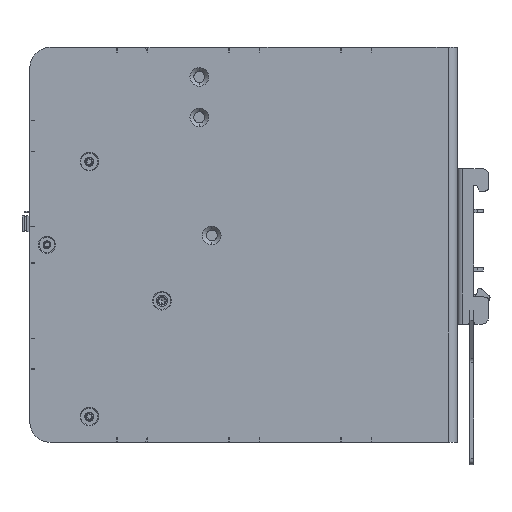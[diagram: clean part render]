
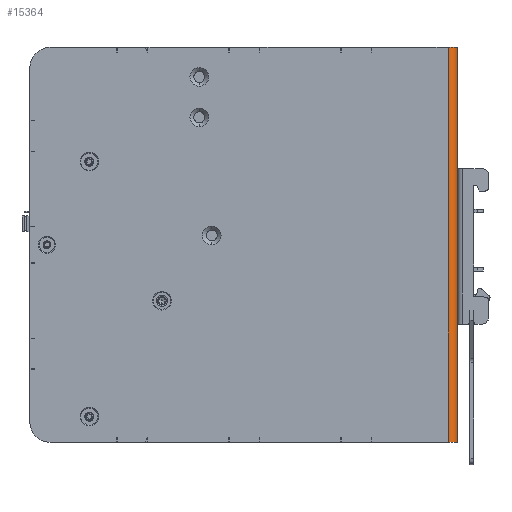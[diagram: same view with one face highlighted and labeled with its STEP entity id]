
A CAD part, front view. The second image highlights one B-rep face of the part: STEP entity #15364.
In plain terms, the highlighted cylindrical face has radius 3 mm (diameter 6 mm), a partial arc.
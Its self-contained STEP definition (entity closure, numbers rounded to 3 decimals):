
#1838 = EDGE_CURVE ( 'NONE', #10672, #155280, #147156, .T. ) ;
#2408 = AXIS2_PLACEMENT_3D ( 'NONE', #53598, #53358, #52924 ) ;
#3061 = VERTEX_POINT ( 'NONE', #57658 ) ;
#10672 = VERTEX_POINT ( 'NONE', #185291 ) ;
#10675 = AXIS2_PLACEMENT_3D ( 'NONE', #161762, #69340, #177287 ) ;
#15364 = ADVANCED_FACE ( 'NONE', ( #197695 ), #183171, .T. ) ;
#24822 = CARTESIAN_POINT ( 'NONE',  ( 65.75, -40., 63.5 ) ) ;
#25421 = CARTESIAN_POINT ( 'NONE',  ( 65.75, -40., -63.5 ) ) ;
#28873 = ORIENTED_EDGE ( 'NONE', *, *, #199777, .F. ) ;
#36370 = DIRECTION ( 'NONE',  ( 0., 0., 1. ) ) ;
#51647 = AXIS2_PLACEMENT_3D ( 'NONE', #60007, #56606, #60252 ) ;
#52924 = DIRECTION ( 'NONE',  ( 1., 0., 0. ) ) ;
#53358 = DIRECTION ( 'NONE',  ( 0., 0., -1. ) ) ;
#53598 = CARTESIAN_POINT ( 'NONE',  ( 65.75, -37., -63.5 ) ) ;
#54454 = VECTOR ( 'NONE', #182292, 1000. ) ;
#56606 = DIRECTION ( 'NONE',  ( 0., 0., 1. ) ) ;
#57658 = CARTESIAN_POINT ( 'NONE',  ( 68.75, -37., 63.5 ) ) ;
#59389 = LINE ( 'NONE', #151891, #54454 ) ;
#60007 = CARTESIAN_POINT ( 'NONE',  ( 65.75, -37., 57. ) ) ;
#60252 = DIRECTION ( 'NONE',  ( 1., 0., 0. ) ) ;
#69340 = DIRECTION ( 'NONE',  ( 0., 0., 1. ) ) ;
#79525 = VERTEX_POINT ( 'NONE', #24822 ) ;
#80211 = EDGE_LOOP ( 'NONE', ( #124329, #196437, #28873, #182192 ) ) ;
#81842 = EDGE_CURVE ( 'NONE', #79525, #155280, #59389, .T. ) ;
#82463 = CARTESIAN_POINT ( 'NONE',  ( 68.75, -37., 57. ) ) ;
#124329 = ORIENTED_EDGE ( 'NONE', *, *, #1838, .F. ) ;
#147156 = CIRCLE ( 'NONE', #2408, 3. ) ;
#151891 = CARTESIAN_POINT ( 'NONE',  ( 65.75, -40., 57. ) ) ;
#155280 = VERTEX_POINT ( 'NONE', #25421 ) ;
#157221 = VECTOR ( 'NONE', #36370, 1000. ) ;
#161762 = CARTESIAN_POINT ( 'NONE',  ( 65.75, -37., 63.5 ) ) ;
#177287 = DIRECTION ( 'NONE',  ( 1., 0., 0. ) ) ;
#182192 = ORIENTED_EDGE ( 'NONE', *, *, #81842, .T. ) ;
#182292 = DIRECTION ( 'NONE',  ( 0., 0., -1. ) ) ;
#183171 = CYLINDRICAL_SURFACE ( 'NONE', #51647, 3. ) ;
#185233 = CIRCLE ( 'NONE', #10675, 3. ) ;
#185291 = CARTESIAN_POINT ( 'NONE',  ( 68.75, -37., -63.5 ) ) ;
#188234 = EDGE_CURVE ( 'NONE', #10672, #3061, #198305, .T. ) ;
#196437 = ORIENTED_EDGE ( 'NONE', *, *, #188234, .T. ) ;
#197695 = FACE_OUTER_BOUND ( 'NONE', #80211, .T. ) ;
#198305 = LINE ( 'NONE', #82463, #157221 ) ;
#199777 = EDGE_CURVE ( 'NONE', #79525, #3061, #185233, .T. ) ;
